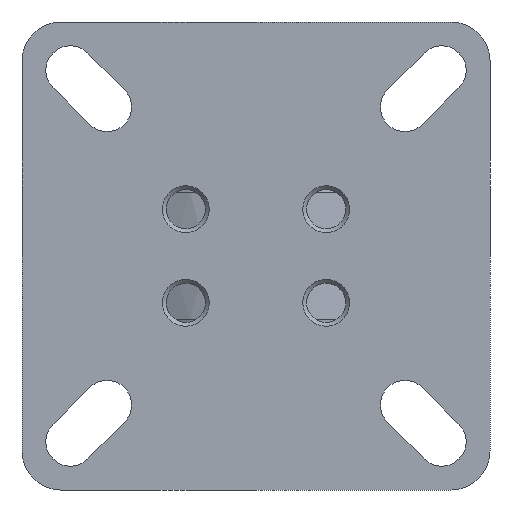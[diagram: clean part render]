
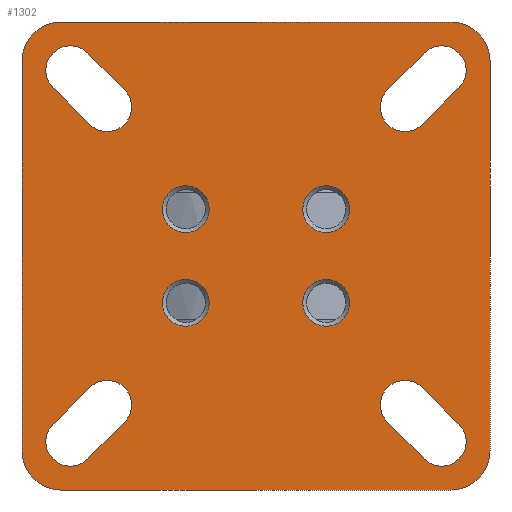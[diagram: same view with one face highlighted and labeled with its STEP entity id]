
A CAD part, front view. The second image highlights one B-rep face of the part: STEP entity #1302.
In plain terms, the highlighted planar face has unit normal (0, -1, 0) as drawn and (0, 1, 0) by its records, which use the part's own axes.
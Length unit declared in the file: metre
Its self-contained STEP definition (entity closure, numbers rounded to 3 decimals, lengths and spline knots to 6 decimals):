
#1302=ADVANCED_FACE('',(#3396,#3397,#3398,#3399,#3400,#3401,#3402,#3403,#3404),#3405,.T.);
#3396=FACE_OUTER_BOUND('',#5800,.T.);
#3397=FACE_BOUND('',#5801,.T.);
#3398=FACE_BOUND('',#5802,.T.);
#3399=FACE_BOUND('',#5803,.T.);
#3400=FACE_BOUND('',#5804,.T.);
#3401=FACE_BOUND('',#5805,.T.);
#3402=FACE_BOUND('',#5806,.T.);
#3403=FACE_BOUND('',#5807,.T.);
#3404=FACE_BOUND('',#5808,.T.);
#3405=PLANE('',#5809);
#5800=EDGE_LOOP('',(#15928,#15929,#15930,#15931,#15932,#15933,#15934,#15935));
#5801=EDGE_LOOP('',(#15936,#15937,#15938,#15939));
#5802=EDGE_LOOP('',(#15940,#15941,#15942,#15943));
#5803=EDGE_LOOP('',(#15944,#15945,#15946,#15947));
#5804=EDGE_LOOP('',(#15948));
#5805=EDGE_LOOP('',(#15949));
#5806=EDGE_LOOP('',(#15950));
#5807=EDGE_LOOP('',(#15951));
#5808=EDGE_LOOP('',(#15952,#15953,#15954,#15955));
#5809=AXIS2_PLACEMENT_3D('',#15956,#15957,#15958);
#15928=ORIENTED_EDGE('',*,*,#19497,.T.);
#15929=ORIENTED_EDGE('',*,*,#19498,.T.);
#15930=ORIENTED_EDGE('',*,*,#19499,.T.);
#15931=ORIENTED_EDGE('',*,*,#19490,.T.);
#15932=ORIENTED_EDGE('',*,*,#19500,.T.);
#15933=ORIENTED_EDGE('',*,*,#19501,.T.);
#15934=ORIENTED_EDGE('',*,*,#19502,.T.);
#15935=ORIENTED_EDGE('',*,*,#19503,.T.);
#15936=ORIENTED_EDGE('',*,*,#19504,.F.);
#15937=ORIENTED_EDGE('',*,*,#19505,.F.);
#15938=ORIENTED_EDGE('',*,*,#19506,.F.);
#15939=ORIENTED_EDGE('',*,*,#19507,.F.);
#15940=ORIENTED_EDGE('',*,*,#19508,.F.);
#15941=ORIENTED_EDGE('',*,*,#19509,.F.);
#15942=ORIENTED_EDGE('',*,*,#19510,.F.);
#15943=ORIENTED_EDGE('',*,*,#19511,.F.);
#15944=ORIENTED_EDGE('',*,*,#19512,.F.);
#15945=ORIENTED_EDGE('',*,*,#19513,.F.);
#15946=ORIENTED_EDGE('',*,*,#19493,.F.);
#15947=ORIENTED_EDGE('',*,*,#19496,.F.);
#15948=ORIENTED_EDGE('',*,*,#19514,.T.);
#15949=ORIENTED_EDGE('',*,*,#19515,.T.);
#15950=ORIENTED_EDGE('',*,*,#19516,.T.);
#15951=ORIENTED_EDGE('',*,*,#19517,.T.);
#15952=ORIENTED_EDGE('',*,*,#19518,.F.);
#15953=ORIENTED_EDGE('',*,*,#19519,.F.);
#15954=ORIENTED_EDGE('',*,*,#19520,.F.);
#15955=ORIENTED_EDGE('',*,*,#19521,.F.);
#15956=CARTESIAN_POINT('',(0.0,0.0015,0.0));
#15957=DIRECTION('',(-0.0,1.0,0.0));
#15958=DIRECTION('',(1.0,0.0,0.0));
#19490=EDGE_CURVE('',#24305,#24303,#24306,.T.);
#19493=EDGE_CURVE('',#24308,#24310,#24311,.T.);
#19496=EDGE_CURVE('',#24313,#24308,#24315,.T.);
#19497=EDGE_CURVE('',#24316,#24317,#24318,.T.);
#19498=EDGE_CURVE('',#24317,#24319,#24320,.T.);
#19499=EDGE_CURVE('',#24319,#24305,#24321,.T.);
#19500=EDGE_CURVE('',#24303,#24322,#24323,.T.);
#19501=EDGE_CURVE('',#24322,#24324,#24325,.T.);
#19502=EDGE_CURVE('',#24324,#24326,#24327,.T.);
#19503=EDGE_CURVE('',#24326,#24316,#24328,.T.);
#19504=EDGE_CURVE('',#24329,#24330,#24331,.T.);
#19505=EDGE_CURVE('',#24332,#24329,#24333,.T.);
#19506=EDGE_CURVE('',#24334,#24332,#24335,.T.);
#19507=EDGE_CURVE('',#24330,#24334,#24336,.T.);
#19508=EDGE_CURVE('',#24337,#24338,#24339,.T.);
#19509=EDGE_CURVE('',#24340,#24337,#24341,.T.);
#19510=EDGE_CURVE('',#24342,#24340,#24343,.T.);
#19511=EDGE_CURVE('',#24338,#24342,#24344,.T.);
#19512=EDGE_CURVE('',#24345,#24313,#24346,.T.);
#19513=EDGE_CURVE('',#24310,#24345,#24347,.T.);
#19514=EDGE_CURVE('',#24348,#24348,#24349,.T.);
#19515=EDGE_CURVE('',#24350,#24350,#24351,.T.);
#19516=EDGE_CURVE('',#24352,#24352,#24353,.T.);
#19517=EDGE_CURVE('',#24354,#24354,#24355,.T.);
#19518=EDGE_CURVE('',#24356,#24357,#24358,.T.);
#19519=EDGE_CURVE('',#24359,#24356,#24360,.T.);
#19520=EDGE_CURVE('',#24361,#24359,#24362,.T.);
#19521=EDGE_CURVE('',#24357,#24361,#24363,.T.);
#24303=VERTEX_POINT('',#31965);
#24305=VERTEX_POINT('',#31968);
#24306=CIRCLE('',#31969,0.005);
#24308=VERTEX_POINT('',#31972);
#24310=VERTEX_POINT('',#31975);
#24311=LINE('',#31976,#31977);
#24313=VERTEX_POINT('',#31980);
#24315=CIRCLE('',#31983,0.00315);
#24316=VERTEX_POINT('',#31984);
#24317=VERTEX_POINT('',#31985);
#24318=LINE('',#31986,#31987);
#24319=VERTEX_POINT('',#31988);
#24320=CIRCLE('',#31989,0.005);
#24321=LINE('',#31990,#31991);
#24322=VERTEX_POINT('',#31992);
#24323=LINE('',#31993,#31994);
#24324=VERTEX_POINT('',#31995);
#24325=CIRCLE('',#31996,0.005);
#24326=VERTEX_POINT('',#31997);
#24327=LINE('',#31998,#31999);
#24328=CIRCLE('',#32000,0.005);
#24329=VERTEX_POINT('',#32001);
#24330=VERTEX_POINT('',#32002);
#24331=CIRCLE('',#32003,0.00315);
#24332=VERTEX_POINT('',#32004);
#24333=LINE('',#32005,#32006);
#24334=VERTEX_POINT('',#32007);
#24335=CIRCLE('',#32008,0.00315);
#24336=LINE('',#32009,#32010);
#24337=VERTEX_POINT('',#32011);
#24338=VERTEX_POINT('',#32012);
#24339=CIRCLE('',#32013,0.00315);
#24340=VERTEX_POINT('',#32014);
#24341=LINE('',#32015,#32016);
#24342=VERTEX_POINT('',#32017);
#24343=CIRCLE('',#32018,0.00315);
#24344=LINE('',#32019,#32020);
#24345=VERTEX_POINT('',#32021);
#24346=LINE('',#32022,#32023);
#24347=CIRCLE('',#32024,0.00315);
#24348=VERTEX_POINT('',#32025);
#24349=CIRCLE('',#32026,0.003);
#24350=VERTEX_POINT('',#32027);
#24351=CIRCLE('',#32028,0.003);
#24352=VERTEX_POINT('',#32029);
#24353=CIRCLE('',#32030,0.003);
#24354=VERTEX_POINT('',#32031);
#24355=CIRCLE('',#32032,0.003);
#24356=VERTEX_POINT('',#32033);
#24357=VERTEX_POINT('',#32034);
#24358=LINE('',#32035,#32036);
#24359=VERTEX_POINT('',#32037);
#24360=CIRCLE('',#32038,0.00315);
#24361=VERTEX_POINT('',#32039);
#24362=LINE('',#32040,#32041);
#24363=CIRCLE('',#32042,0.00315);
#31965=CARTESIAN_POINT('',(-0.025,0.0015,0.03));
#31968=CARTESIAN_POINT('',(-0.03,0.0015,0.025));
#31969=AXIS2_PLACEMENT_3D('',#37859,#37860,#37861);
#31972=CARTESIAN_POINT('',(-0.021573,0.0015,0.026027));
#31975=CARTESIAN_POINT('',(-0.016873,0.0015,0.021327));
#31976=CARTESIAN_POINT('',(-0.021573,0.0015,0.026027));
#31977=VECTOR('',#37864,1.0);
#31980=CARTESIAN_POINT('',(-0.026027,0.0015,0.021573));
#31983=AXIS2_PLACEMENT_3D('',#37867,#37868,#37869);
#31984=CARTESIAN_POINT('',(0.025,0.0015,-0.03));
#31985=CARTESIAN_POINT('',(-0.025,0.0015,-0.03));
#31986=CARTESIAN_POINT('',(0.0,0.0015,-0.03));
#31987=VECTOR('',#37870,1.0);
#31988=CARTESIAN_POINT('',(-0.03,0.0015,-0.025));
#31989=AXIS2_PLACEMENT_3D('',#37871,#37872,#37873);
#31990=CARTESIAN_POINT('',(-0.03,0.0015,0.0));
#31991=VECTOR('',#37874,1.0);
#31992=CARTESIAN_POINT('',(0.025,0.0015,0.03));
#31993=CARTESIAN_POINT('',(0.0,0.0015,0.03));
#31994=VECTOR('',#37875,1.0);
#31995=CARTESIAN_POINT('',(0.03,0.0015,0.025));
#31996=AXIS2_PLACEMENT_3D('',#37876,#37877,#37878);
#31997=CARTESIAN_POINT('',(0.03,0.0015,-0.025));
#31998=CARTESIAN_POINT('',(0.03,0.0015,0.0));
#31999=VECTOR('',#37879,1.0);
#32000=AXIS2_PLACEMENT_3D('',#37880,#37881,#37882);
#32001=CARTESIAN_POINT('',(0.021573,0.0015,0.026027));
#32002=CARTESIAN_POINT('',(0.026027,0.0015,0.021573));
#32003=AXIS2_PLACEMENT_3D('',#37883,#37884,#37885);
#32004=CARTESIAN_POINT('',(0.016873,0.0015,0.021327));
#32005=CARTESIAN_POINT('',(0.016873,0.0015,0.021327));
#32006=VECTOR('',#37886,1.0);
#32007=CARTESIAN_POINT('',(0.021327,0.0015,0.016873));
#32008=AXIS2_PLACEMENT_3D('',#37887,#37888,#37889);
#32009=CARTESIAN_POINT('',(0.026027,0.0015,0.021573));
#32010=VECTOR('',#37890,1.0);
#32011=CARTESIAN_POINT('',(-0.021573,0.0015,-0.026027));
#32012=CARTESIAN_POINT('',(-0.026027,0.0015,-0.021573));
#32013=AXIS2_PLACEMENT_3D('',#37891,#37892,#37893);
#32014=CARTESIAN_POINT('',(-0.016873,0.0015,-0.021327));
#32015=CARTESIAN_POINT('',(-0.016873,0.0015,-0.021327));
#32016=VECTOR('',#37894,1.0);
#32017=CARTESIAN_POINT('',(-0.021327,0.0015,-0.016873));
#32018=AXIS2_PLACEMENT_3D('',#37895,#37896,#37897);
#32019=CARTESIAN_POINT('',(-0.026027,0.0015,-0.021573));
#32020=VECTOR('',#37898,1.0);
#32021=CARTESIAN_POINT('',(-0.021327,0.0015,0.016873));
#32022=CARTESIAN_POINT('',(-0.021327,0.0015,0.016873));
#32023=VECTOR('',#37899,1.0);
#32024=AXIS2_PLACEMENT_3D('',#37900,#37901,#37902);
#32025=CARTESIAN_POINT('',(0.009,0.0015,0.009));
#32026=AXIS2_PLACEMENT_3D('',#37903,#37904,#37905);
#32027=CARTESIAN_POINT('',(-0.009,0.0015,0.009));
#32028=AXIS2_PLACEMENT_3D('',#37906,#37907,#37908);
#32029=CARTESIAN_POINT('',(0.009,0.0015,-0.003));
#32030=AXIS2_PLACEMENT_3D('',#37909,#37910,#37911);
#32031=CARTESIAN_POINT('',(-0.009,0.0015,-0.003));
#32032=AXIS2_PLACEMENT_3D('',#37912,#37913,#37914);
#32033=CARTESIAN_POINT('',(0.021327,0.0015,-0.016873));
#32034=CARTESIAN_POINT('',(0.026027,0.0015,-0.021573));
#32035=CARTESIAN_POINT('',(0.021327,0.0015,-0.016873));
#32036=VECTOR('',#37915,1.0);
#32037=CARTESIAN_POINT('',(0.016873,0.0015,-0.021327));
#32038=AXIS2_PLACEMENT_3D('',#37916,#37917,#37918);
#32039=CARTESIAN_POINT('',(0.021573,0.0015,-0.026027));
#32040=CARTESIAN_POINT('',(0.021573,0.0015,-0.026027));
#32041=VECTOR('',#37919,1.0);
#32042=AXIS2_PLACEMENT_3D('',#37920,#37921,#37922);
#37859=CARTESIAN_POINT('',(-0.025,0.0015,0.025));
#37860=DIRECTION('',(0.0,1.0,0.0));
#37861=DIRECTION('',(0.0,0.0,1.0));
#37864=DIRECTION('',(0.707,0.0,-0.707));
#37867=CARTESIAN_POINT('',(-0.0238,0.0015,0.0238));
#37868=DIRECTION('',(0.0,1.0,0.0));
#37869=DIRECTION('',(0.0,0.0,1.0));
#37870=DIRECTION('',(-1.0,0.0,0.0));
#37871=CARTESIAN_POINT('',(-0.025,0.0015,-0.025));
#37872=DIRECTION('',(0.0,1.0,0.0));
#37873=DIRECTION('',(0.0,0.0,1.0));
#37874=DIRECTION('',(0.0,0.0,1.0));
#37875=DIRECTION('',(1.0,0.0,0.0));
#37876=CARTESIAN_POINT('',(0.025,0.0015,0.025));
#37877=DIRECTION('',(0.0,1.0,0.0));
#37878=DIRECTION('',(0.0,0.0,1.0));
#37879=DIRECTION('',(0.0,0.0,-1.0));
#37880=CARTESIAN_POINT('',(0.025,0.0015,-0.025));
#37881=DIRECTION('',(0.0,1.0,0.0));
#37882=DIRECTION('',(0.0,0.0,1.0));
#37883=CARTESIAN_POINT('',(0.0238,0.0015,0.0238));
#37884=DIRECTION('',(0.0,1.0,0.0));
#37885=DIRECTION('',(0.0,0.0,1.0));
#37886=DIRECTION('',(0.707,0.0,0.707));
#37887=CARTESIAN_POINT('',(0.0191,0.0015,0.0191));
#37888=DIRECTION('',(0.0,1.0,0.0));
#37889=DIRECTION('',(0.0,0.0,1.0));
#37890=DIRECTION('',(-0.707,0.0,-0.707));
#37891=CARTESIAN_POINT('',(-0.0238,0.0015,-0.0238));
#37892=DIRECTION('',(0.0,1.0,0.0));
#37893=DIRECTION('',(0.0,0.0,1.0));
#37894=DIRECTION('',(-0.707,0.0,-0.707));
#37895=CARTESIAN_POINT('',(-0.0191,0.0015,-0.0191));
#37896=DIRECTION('',(0.0,1.0,0.0));
#37897=DIRECTION('',(0.0,0.0,1.0));
#37898=DIRECTION('',(0.707,0.0,0.707));
#37899=DIRECTION('',(-0.707,0.0,0.707));
#37900=CARTESIAN_POINT('',(-0.0191,0.0015,0.0191));
#37901=DIRECTION('',(0.0,1.0,0.0));
#37902=DIRECTION('',(0.0,0.0,1.0));
#37903=CARTESIAN_POINT('',(0.009,0.0015,0.006));
#37904=DIRECTION('',(0.0,-1.0,0.0));
#37905=DIRECTION('',(0.0,0.0,1.0));
#37906=CARTESIAN_POINT('',(-0.009,0.0015,0.006));
#37907=DIRECTION('',(0.0,-1.0,0.0));
#37908=DIRECTION('',(0.0,0.0,1.0));
#37909=CARTESIAN_POINT('',(0.009,0.0015,-0.006));
#37910=DIRECTION('',(0.0,-1.0,0.0));
#37911=DIRECTION('',(0.0,0.0,1.0));
#37912=CARTESIAN_POINT('',(-0.009,0.0015,-0.006));
#37913=DIRECTION('',(0.0,-1.0,0.0));
#37914=DIRECTION('',(0.0,0.0,1.0));
#37915=DIRECTION('',(0.707,0.0,-0.707));
#37916=CARTESIAN_POINT('',(0.0191,0.0015,-0.0191));
#37917=DIRECTION('',(0.0,1.0,0.0));
#37918=DIRECTION('',(0.0,0.0,1.0));
#37919=DIRECTION('',(-0.707,0.0,0.707));
#37920=CARTESIAN_POINT('',(0.0238,0.0015,-0.0238));
#37921=DIRECTION('',(0.0,1.0,0.0));
#37922=DIRECTION('',(0.0,0.0,1.0));
